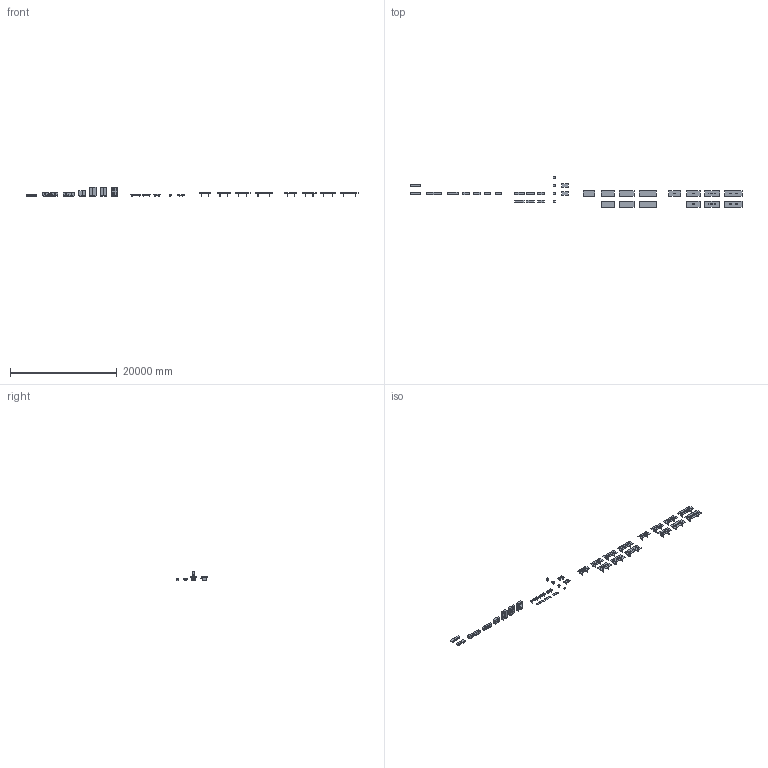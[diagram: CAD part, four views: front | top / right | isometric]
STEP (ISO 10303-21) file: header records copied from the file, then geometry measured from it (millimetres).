
FILE_DESCRIPTION(/* description */ (''),/* implementation_level */ '2;1');
FILE_NAME(/* name */ 'TRUE_Essence_3D',/* time_stamp */ '2026-07-23T11:41:25+02:00',/* author */ (''),/* organization */ (''),/* preprocessor_version */ 'ST-DEVELOPER v16.5',/* originating_system */ '',/* authorisation */ '');
FILE_SCHEMA (('CONFIG_CONTROL_DESIGN'));
Length unit declared in the file: millimetre
Products named in the file (1): Document
Bounding box: 62100 x 5775 x 1800 mm (x, y, z)
Volume: 4316848079.7 mm3; surface area: 279296627.2 mm2
Topology: 310 solids, 310 shells, 3110 faces, 7420 edges, 4908 vertices
Faces by surface type: plane 2786, cylinder 240, bspline 84
Entity records: 78455 total; most frequent: CARTESIAN_POINT 25763, ORIENTED_EDGE 14628, EDGE_CURVE 7314, B_SPLINE_CURVE_WITH_KNOTS 6674, VERTEX_POINT 4840, EDGE_LOOP 3166, ADVANCED_FACE 3110, FACE_OUTER_BOUND 3110
